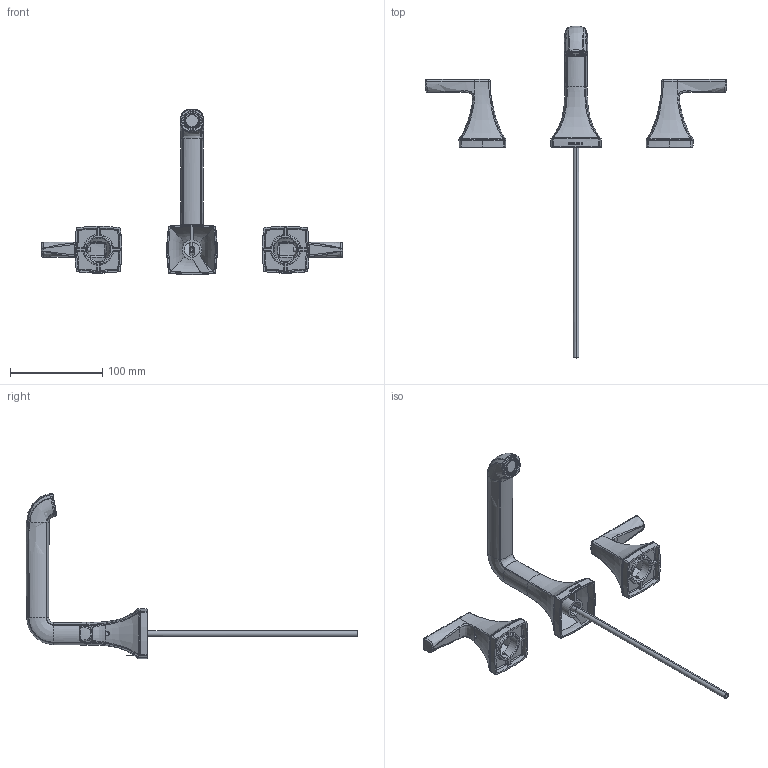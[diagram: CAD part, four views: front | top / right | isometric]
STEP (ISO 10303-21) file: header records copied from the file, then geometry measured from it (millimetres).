
FILE_DESCRIPTION (( 'STEP AP214' ), '1' );
FILE_NAME ('SLW5612.STEP', '2025-01-02T05:27:42', ( '' ), ( '' ), 'SwSTEP 2.0', 'SolidWorks 2023', '' );
FILE_SCHEMA (( 'AUTOMOTIVE_DESIGN' ));
Length unit declared in the file: inch
Products named in the file (1): SLW5612
Bounding box: 327.49 x 359.83 x 179.65 mm (x, y, z)
Surface area: 90072.7 mm2 (no closed solid volume)
Topology: 0 solids, 39 shells, 581 faces, 2263 edges, 1642 vertices
Faces by surface type: bspline 257, cylinder 180, plane 102, cone 16, sphere 16, torus 10
Entity records: 50592 total; most frequent: CARTESIAN_POINT 34852, ORIENTED_EDGE 3397, DIRECTION 2473, EDGE_CURVE 2237, VERTEX_POINT 1642, B_SPLINE_CURVE_WITH_KNOTS 945, AXIS2_PLACEMENT_3D 944, EDGE_LOOP 643
